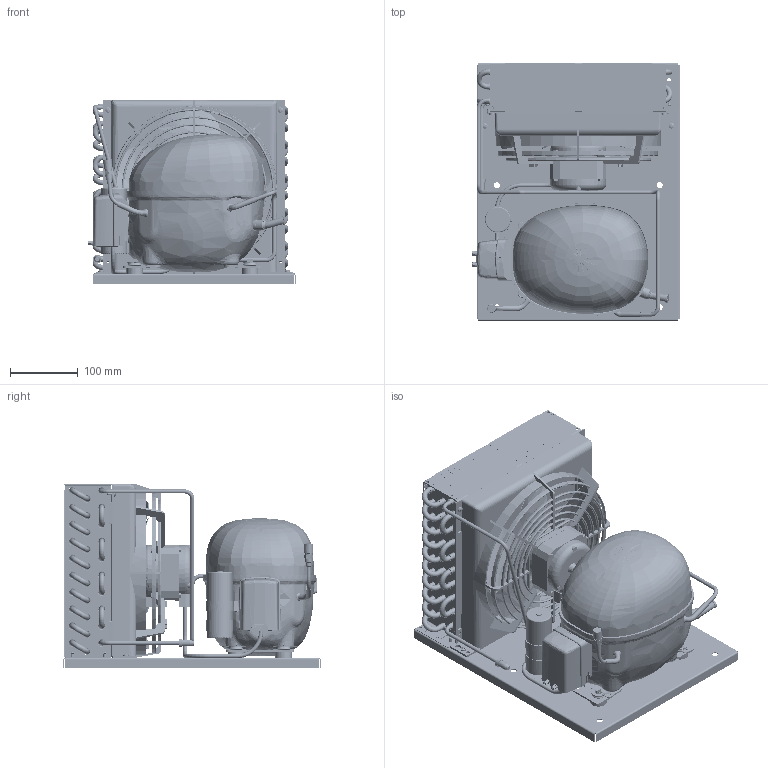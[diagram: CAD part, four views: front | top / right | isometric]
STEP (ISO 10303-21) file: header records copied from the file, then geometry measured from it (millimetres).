
FILE_DESCRIPTION(/* description */ ('Unknown'),/* implementation_level */ '2;1');
FILE_NAME(/* name */ '2298-0032',/* time_stamp */ '2021-12-15T09:25:37+01:00',/* author */ ('Unknown'),/* organization */ ('Unknown'),/* preprocessor_version */ 'ST-DEVELOPER v16.7',/* originating_system */ 'Solid Edge',/* authorisation */ 'Unknown');
FILE_SCHEMA (('AUTOMOTIVE_DESIGN {1 0 10303 214 3 1 1}'));
Products named in the file (33): 2298-0032; 92505123; 1030240f70; r50017306; r50017307; r59700283; 2990210; r50017301; r50017308; cg230n; a230-28; NLE11MF.2-A-CSIR; 84RM10X21XXPIAF00; sc18cl-a-csr_piedino; 99540010; 84v1.8x35xxcopf00; 84t4.8x8xxxtcca00_oa_0; 84t4.8x8xxxtcca00_oa_1; 84t4.8x8xxxtcca00_oa_2; 84t4.8x8xxxtcca00_oa_3; 84a4.2x9.5xtbcf01; 99000082_secop; 84dm4x3.6xxesrf00; 99510255_Curva120°; 8351_2; 99510255_Tubo_Curva120°; 8392_A; aa707710x; 680065419; 680063692; 99540001; 99000082_SECOP_F-GAS; 2298-0032_CAVO_VENTOLA
Assembly tree (74 placements, depth 3):
  2298-0032
    92505123
    1030240f70
      r50017306
      r50017307
      r59700283  x15
      2990210  x14
      r50017301
      r50017308
    cg230n
    a230-28
    NLE11MF.2-A-CSIR
    84RM10X21XXPIAF00  x4
    sc18cl-a-csr_piedino  x4
    99540010
    84v1.8x35xxcopf00  x4
    84t4.8x8xxxtcca00_oa_0
    84t4.8x8xxxtcca00_oa_1
    84t4.8x8xxxtcca00_oa_2
    84t4.8x8xxxtcca00_oa_3
    84a4.2x9.5xtbcf01  x4
    99000082_secop
    84dm4x3.6xxesrf00  x4
    99510255_Curva120°
      8351_2
      99510255_Tubo_Curva120°
      8392_A
    aa707710x
    680065419
    680063692
    99540001
    99000082_SECOP_F-GAS
    2298-0032_CAVO_VENTOLA
Bounding box: 306.65 x 380 x 272.12 mm (x, y, z)
Volume: 4921200.2 mm3; surface area: 2021384.1 mm2
Topology: 72 solids, 72 shells, 7193 faces, 18343 edges, 11830 vertices
Faces by surface type: plane 4223, cylinder 1257, bspline 751, torus 542, cone 327, sphere 93
Full cylindrical faces by diameter (mm): 1 x1, 1.8 x20, 2.2 x4, 2.31 x5, 2.7 x4, 3 x8, 3.2 x1, 3.242 x4, 3.5 x15, 3.6 x4, 4 x14, 4.1 x1, 4.2 x13, 4.5 x8, 4.66 x4, 4.7 x4, 4.8 x2, 5 x19, 5.5 x14, 5.9 x1, 6 x17, 6.1 x6, 6.2 x2, 6.93 x28, 7 x5, 7.33 x30, 7.6 x2, 7.93 x58, 8 x15, 8.2 x2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
Entity records: 274946 total; most frequent: CARTESIAN_POINT 103537, ORIENTED_EDGE 32754, DIRECTION 24663, EDGE_CURVE 16377, VERTEX_POINT 10969, AXIS2_PLACEMENT_3D 8942, EDGE_LOOP 8518, FACE_BOUND 8518
